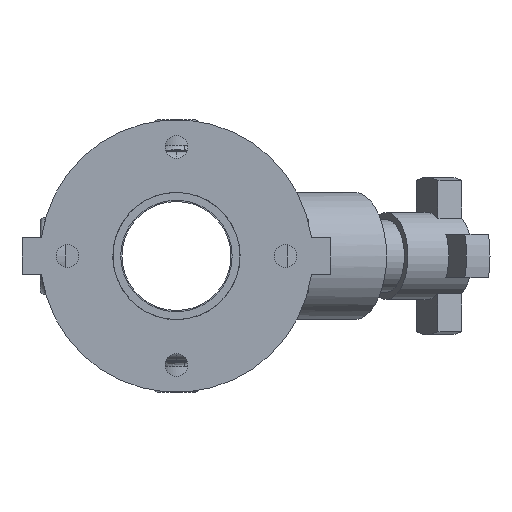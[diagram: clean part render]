
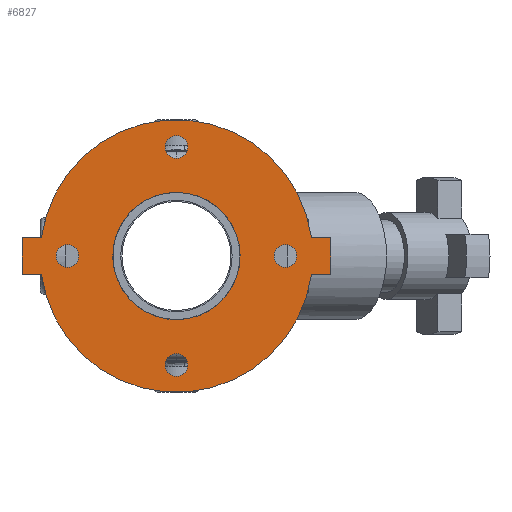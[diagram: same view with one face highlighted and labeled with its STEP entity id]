
A CAD part, front view. The second image highlights one B-rep face of the part: STEP entity #6827.
In plain terms, the highlighted planar face has unit normal (0, -1, 0) as drawn and (0, 0, 1) by its records, which use the part's own axes.
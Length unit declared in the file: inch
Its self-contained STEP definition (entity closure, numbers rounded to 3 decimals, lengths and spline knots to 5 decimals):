
#303=FACE_BOUND('',#935,.T.);
#304=FACE_BOUND('',#936,.T.);
#305=FACE_BOUND('',#937,.T.);
#306=FACE_BOUND('',#938,.T.);
#307=FACE_BOUND('',#939,.T.);
#366=PLANE('',#7400);
#549=FACE_OUTER_BOUND('',#934,.T.);
#934=EDGE_LOOP('',(#4371,#4372,#4373,#4374,#4375,#4376,#4377,#4378));
#935=EDGE_LOOP('',(#4379));
#936=EDGE_LOOP('',(#4380));
#937=EDGE_LOOP('',(#4381));
#938=EDGE_LOOP('',(#4382));
#939=EDGE_LOOP('',(#4383,#4384));
#1372=LINE('',#10265,#1846);
#1373=LINE('',#10268,#1847);
#1376=LINE('',#10273,#1850);
#1377=LINE('',#10276,#1851);
#1379=LINE('',#10279,#1853);
#1380=LINE('',#10281,#1854);
#1846=VECTOR('',#8223,0.3937);
#1847=VECTOR('',#8226,0.3937);
#1850=VECTOR('',#8231,0.3937);
#1851=VECTOR('',#8234,0.3937);
#1853=VECTOR('',#8238,0.3937);
#1854=VECTOR('',#8241,0.3937);
#2304=CIRCLE('',#7371,0.3125);
#2306=CIRCLE('',#7374,0.3125);
#2308=CIRCLE('',#7377,0.3125);
#2310=CIRCLE('',#7380,0.3125);
#2316=CIRCLE('',#7388,3.75);
#2317=CIRCLE('',#7390,1.75);
#2318=CIRCLE('',#7391,1.75);
#2319=CIRCLE('',#7393,3.75);
#2661=VERTEX_POINT('',#10200);
#2663=VERTEX_POINT('',#10206);
#2665=VERTEX_POINT('',#10212);
#2667=VERTEX_POINT('',#10218);
#2679=VERTEX_POINT('',#10245);
#2680=VERTEX_POINT('',#10247);
#2681=VERTEX_POINT('',#10251);
#2682=VERTEX_POINT('',#10253);
#2683=VERTEX_POINT('',#10257);
#2684=VERTEX_POINT('',#10259);
#2685=VERTEX_POINT('',#10263);
#2686=VERTEX_POINT('',#10267);
#2687=VERTEX_POINT('',#10271);
#2688=VERTEX_POINT('',#10275);
#3311=EDGE_CURVE('',#2661,#2661,#2304,.T.);
#3314=EDGE_CURVE('',#2663,#2663,#2306,.T.);
#3317=EDGE_CURVE('',#2665,#2665,#2308,.T.);
#3320=EDGE_CURVE('',#2667,#2667,#2310,.T.);
#3335=EDGE_CURVE('',#2679,#2680,#2316,.T.);
#3337=EDGE_CURVE('',#2682,#2681,#2317,.T.);
#3338=EDGE_CURVE('',#2681,#2682,#2318,.T.);
#3340=EDGE_CURVE('',#2684,#2683,#2319,.T.);
#3343=EDGE_CURVE('',#2680,#2685,#1372,.T.);
#3344=EDGE_CURVE('',#2686,#2684,#1373,.T.);
#3347=EDGE_CURVE('',#2683,#2687,#1376,.T.);
#3348=EDGE_CURVE('',#2688,#2679,#1377,.T.);
#3350=EDGE_CURVE('',#2687,#2688,#1379,.T.);
#3351=EDGE_CURVE('',#2685,#2686,#1380,.T.);
#4371=ORIENTED_EDGE('',*,*,#3347,.T.);
#4372=ORIENTED_EDGE('',*,*,#3350,.T.);
#4373=ORIENTED_EDGE('',*,*,#3348,.T.);
#4374=ORIENTED_EDGE('',*,*,#3335,.T.);
#4375=ORIENTED_EDGE('',*,*,#3343,.T.);
#4376=ORIENTED_EDGE('',*,*,#3351,.T.);
#4377=ORIENTED_EDGE('',*,*,#3344,.T.);
#4378=ORIENTED_EDGE('',*,*,#3340,.T.);
#4379=ORIENTED_EDGE('',*,*,#3311,.T.);
#4380=ORIENTED_EDGE('',*,*,#3314,.T.);
#4381=ORIENTED_EDGE('',*,*,#3317,.T.);
#4382=ORIENTED_EDGE('',*,*,#3320,.T.);
#4383=ORIENTED_EDGE('',*,*,#3337,.T.);
#4384=ORIENTED_EDGE('',*,*,#3338,.T.);
#6827=ADVANCED_FACE('',(#549,#303,#304,#305,#306,#307),#366,.T.);
#7371=AXIS2_PLACEMENT_3D('',#10201,#8159,#8160);
#7374=AXIS2_PLACEMENT_3D('',#10207,#8166,#8167);
#7377=AXIS2_PLACEMENT_3D('',#10213,#8173,#8174);
#7380=AXIS2_PLACEMENT_3D('',#10219,#8180,#8181);
#7388=AXIS2_PLACEMENT_3D('',#10249,#8205,#8206);
#7390=AXIS2_PLACEMENT_3D('',#10254,#8210,#8211);
#7391=AXIS2_PLACEMENT_3D('',#10255,#8212,#8213);
#7393=AXIS2_PLACEMENT_3D('',#10260,#8217,#8218);
#7400=AXIS2_PLACEMENT_3D('',#10282,#8242,#8243);
#8159=DIRECTION('center_axis',(0.,0.,-1.));
#8160=DIRECTION('ref_axis',(0.,1.,0.));
#8166=DIRECTION('center_axis',(0.,0.,-1.));
#8167=DIRECTION('ref_axis',(1.,0.,0.));
#8173=DIRECTION('center_axis',(0.,0.,-1.));
#8174=DIRECTION('ref_axis',(0.,-1.,0.));
#8180=DIRECTION('center_axis',(0.,0.,-1.));
#8181=DIRECTION('ref_axis',(-1.,0.,0.));
#8205=DIRECTION('center_axis',(0.,0.,1.));
#8206=DIRECTION('ref_axis',(-1.,0.,0.));
#8210=DIRECTION('center_axis',(0.,0.,-1.));
#8211=DIRECTION('ref_axis',(-1.,0.,0.));
#8212=DIRECTION('center_axis',(0.,0.,-1.));
#8213=DIRECTION('ref_axis',(-1.,0.,0.));
#8217=DIRECTION('center_axis',(0.,0.,1.));
#8218=DIRECTION('ref_axis',(-1.,0.,0.));
#8223=DIRECTION('',(0.,1.,0.));
#8226=DIRECTION('',(0.,-1.,0.));
#8231=DIRECTION('',(0.,-1.,0.));
#8234=DIRECTION('',(0.,1.,0.));
#8238=DIRECTION('',(1.,0.,0.));
#8241=DIRECTION('',(-1.,0.,0.));
#8242=DIRECTION('center_axis',(0.,0.,1.));
#8243=DIRECTION('ref_axis',(1.,0.,0.));
#10200=CARTESIAN_POINT('',(0.,2.6875,0.5));
#10201=CARTESIAN_POINT('Origin',(0.,3.,0.5));
#10206=CARTESIAN_POINT('',(2.6875,0.,0.5));
#10207=CARTESIAN_POINT('Origin',(3.,0.,0.5));
#10212=CARTESIAN_POINT('',(0.,-2.6875,0.5));
#10213=CARTESIAN_POINT('Origin',(0.,-3.,0.5));
#10218=CARTESIAN_POINT('',(-2.6875,0.,0.5));
#10219=CARTESIAN_POINT('Origin',(-3.,0.,0.5));
#10245=CARTESIAN_POINT('',(0.5,-3.71652,0.5));
#10247=CARTESIAN_POINT('',(0.5,3.71652,0.5));
#10249=CARTESIAN_POINT('Origin',(0.,0.,0.5));
#10251=CARTESIAN_POINT('',(1.75,0.,0.5));
#10253=CARTESIAN_POINT('',(0.5,1.67705,0.5));
#10254=CARTESIAN_POINT('Origin',(0.,0.,0.5));
#10255=CARTESIAN_POINT('Origin',(0.,0.,0.5));
#10257=CARTESIAN_POINT('',(-0.5,-3.71652,0.5));
#10259=CARTESIAN_POINT('',(-0.5,3.71652,0.5));
#10260=CARTESIAN_POINT('Origin',(0.,0.,0.5));
#10263=CARTESIAN_POINT('',(0.5,4.25,0.5));
#10265=CARTESIAN_POINT('',(0.5,4.25,0.5));
#10267=CARTESIAN_POINT('',(-0.5,4.25,0.5));
#10268=CARTESIAN_POINT('',(-0.5,-4.25,0.5));
#10271=CARTESIAN_POINT('',(-0.5,-4.25,0.5));
#10273=CARTESIAN_POINT('',(-0.5,-4.25,0.5));
#10275=CARTESIAN_POINT('',(0.5,-4.25,0.5));
#10276=CARTESIAN_POINT('',(0.5,4.25,0.5));
#10279=CARTESIAN_POINT('',(0.5,-4.25,0.5));
#10281=CARTESIAN_POINT('',(-0.5,4.25,0.5));
#10282=CARTESIAN_POINT('Origin',(0.,0.,0.5));
